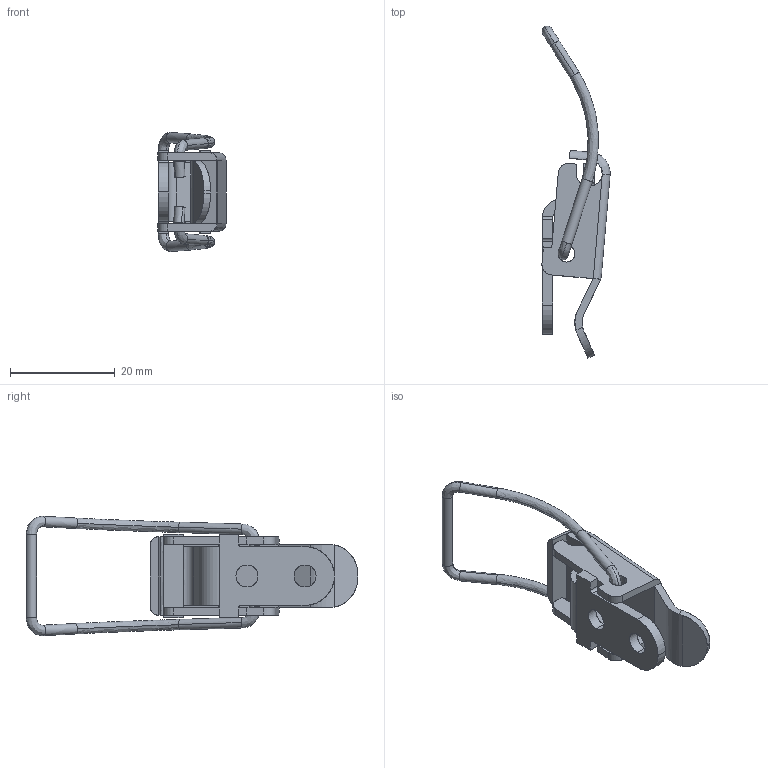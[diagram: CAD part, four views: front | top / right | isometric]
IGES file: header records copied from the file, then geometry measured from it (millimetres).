
Start section: SolidWorks IGES FILE using analytic representation for surfaces
Global section: file name: C:\WINNT\Profiles\cbrechard\Bureau\GE 1003\GE 1003.IGS; native system: SolidWorks 2001Plus by SolidWorks Corporation; preprocessor: Version 5.3; author: CBRECHARD; date: 050124.100105; units: millimetre
Bounding box: 13.01 x 63.41 x 22.79 mm (x, y, z)
Surface area: 3969.8 mm2 (no closed solid volume)
Topology: 0 solids, 0 shells, 175 faces, 1387 edges, 1328 vertices
Faces by surface type: revolution 108, bspline 67
